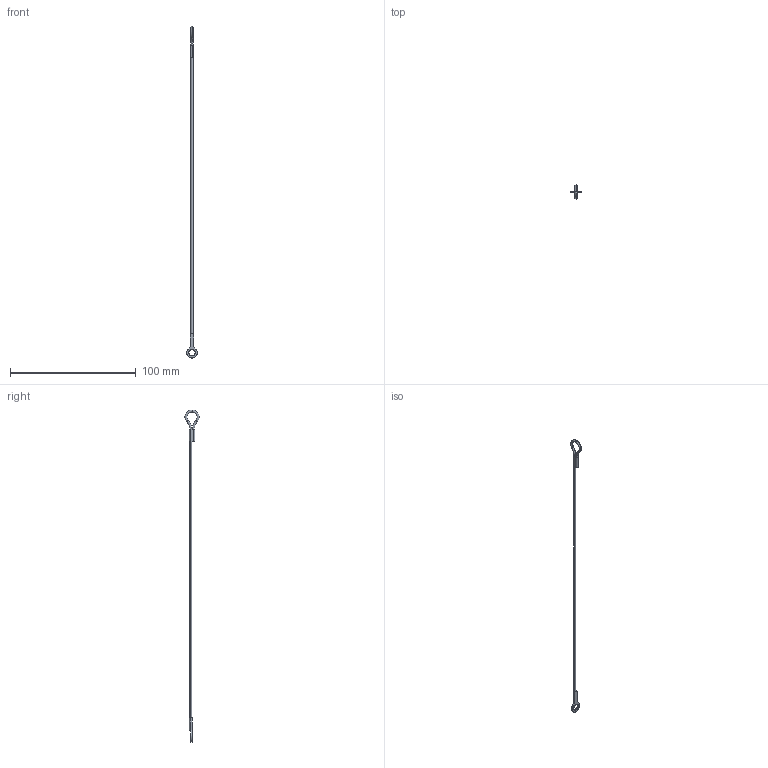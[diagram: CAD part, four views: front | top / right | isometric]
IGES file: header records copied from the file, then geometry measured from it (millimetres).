
Start section: SolidWorks IGES file using analytic representation for surfaces
Global section: file name: C:\Users\ianosborn\Desktop\LA1075_v2\LA1075_v2_20260320_IGES\LA1075.I04-254B1.igs; native system: SolidWorks 2019; preprocessor: SolidWorks 2019; author: IanOsborn; date: 260323.164145; units: millimetre
Bounding box: 8.38 x 11.16 x 263.79 mm (x, y, z)
Surface area: 1620 mm2 (no closed solid volume)
Topology: 0 solids, 0 shells, 30 faces, 404 edges, 404 vertices
Faces by surface type: bspline 20, revolution 10
